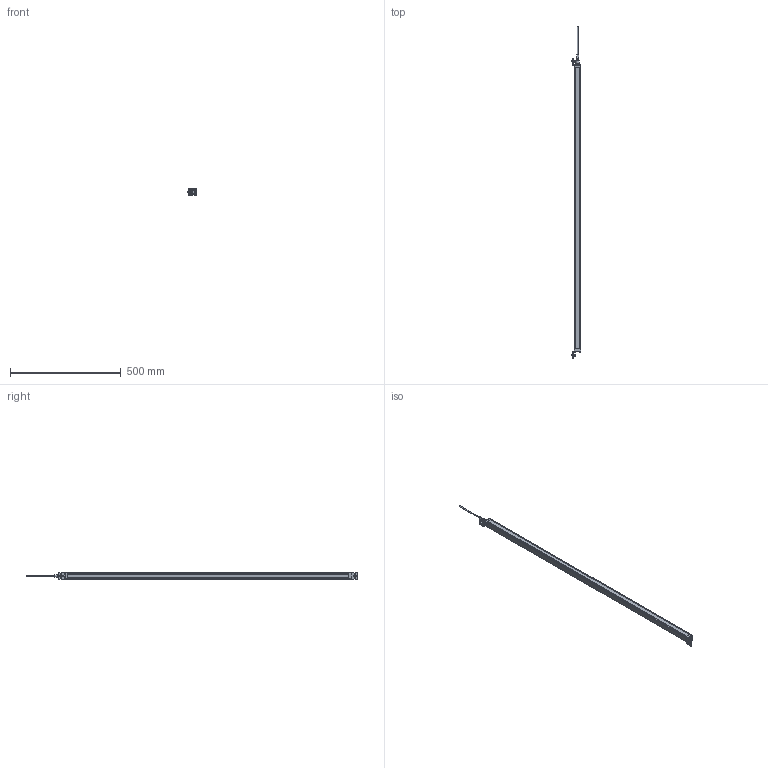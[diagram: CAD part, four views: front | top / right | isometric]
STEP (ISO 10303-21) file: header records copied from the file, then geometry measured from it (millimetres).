
FILE_DESCRIPTION(/* description */ (''),/* implementation_level */ '2;1');
FILE_NAME(/* name */ 'QE64-20-1260_stp.stp',/* time_stamp */ '2023-07-18T20:35:58+08:00',/* author */ (''),/* organization */ (''),/* preprocessor_version */ 'ST-DEVELOPER v14',/* originating_system */ 'SIEMENS PLM Software NX 8.0',/* authorisation */ '');
FILE_SCHEMA (('CONFIG_CONTROL_DESIGN'));
Products named in the file (1): QE50-20-980_stp
Bounding box: 44.2 x 1498.8 x 30 mm (x, y, z)
Volume: 1046946.9 mm3; surface area: 226728.6 mm2
Topology: 25 solids, 25 shells, 619 faces, 1571 edges, 1037 vertices
Faces by surface type: plane 335, cylinder 196, bspline 57, cone 22, sphere 5, torus 4
Full cylindrical faces by diameter (mm): 0.7 x2, 1 x5, 2 x5, 2.2 x8, 3.6 x8, 4 x4, 5.5 x12, 6 x2, 7 x2, 8 x1, 9.04 x1, 9.1 x1, 10 x3, 10.8 x1, 11 x2, 11.85 x1, 11.9 x1, 14.5 x1, 15 x2, 15.2 x2
Entity records: 41701 total; most frequent: CARTESIAN_POINT 27535, ORIENTED_EDGE 2832, DIRECTION 2774, EDGE_CURVE 1416, AXIS2_PLACEMENT_3D 1007, VERTEX_POINT 983, EDGE_LOOP 813, LINE 760
